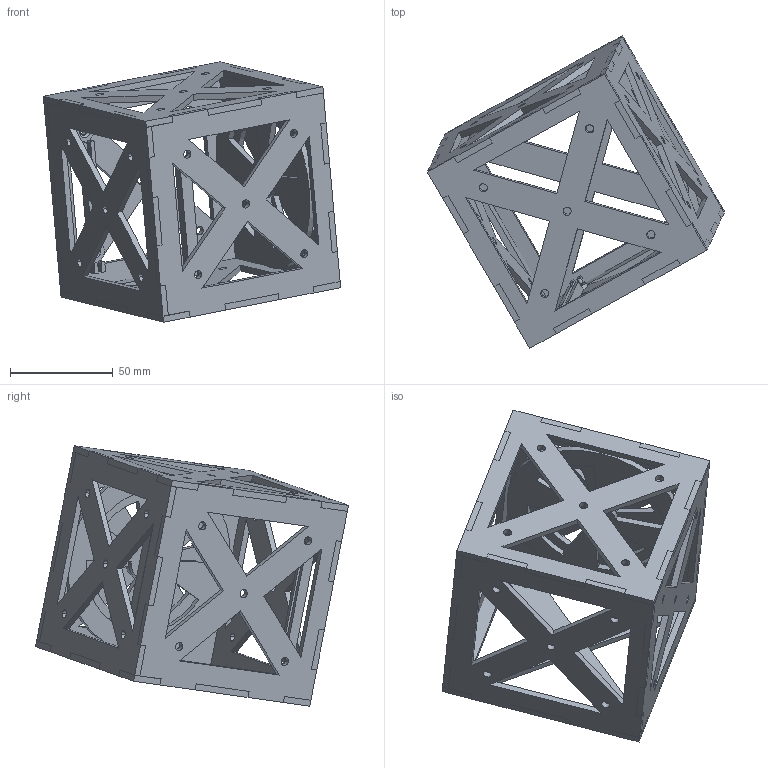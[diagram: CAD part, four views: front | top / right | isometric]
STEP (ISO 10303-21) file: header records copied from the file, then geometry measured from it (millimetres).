
FILE_DESCRIPTION (( 'STEP AP214' ), '1' );
FILE_NAME ('Cube.STEP', '2019-04-02T17:37:58', ( 'Charles' ), ( '' ), 'SwSTEP 2.0', 'SolidWorks 2016', '' );
FILE_SCHEMA (( 'AUTOMOTIVE_DESIGN' ));
Length unit declared in the file: millimetre
Products named in the file (6): Cube; CubeSide; wheelXS; wheelS; Rail
Assembly tree (10 placements, depth 2):
  Cube
    CubeSide  x4
    Cube  x2
    wheelXS
    wheelS
    Rail  x2
Bounding box: 144.76 x 152.45 x 126.85 mm (x, y, z)
Volume: 135414.7 mm3; surface area: 115040.2 mm2
Topology: 10 solids, 10 shells, 508 faces, 1456 edges, 968 vertices
Faces by surface type: plane 364, cylinder 136, cone 8
Entity records: 7412 total; most frequent: CARTESIAN_POINT 1251, ORIENTED_EDGE 1228, DIRECTION 1216, EDGE_CURVE 614, LINE 470, VECTOR 470, VERTEX_POINT 408, AXIS2_PLACEMENT_3D 373
